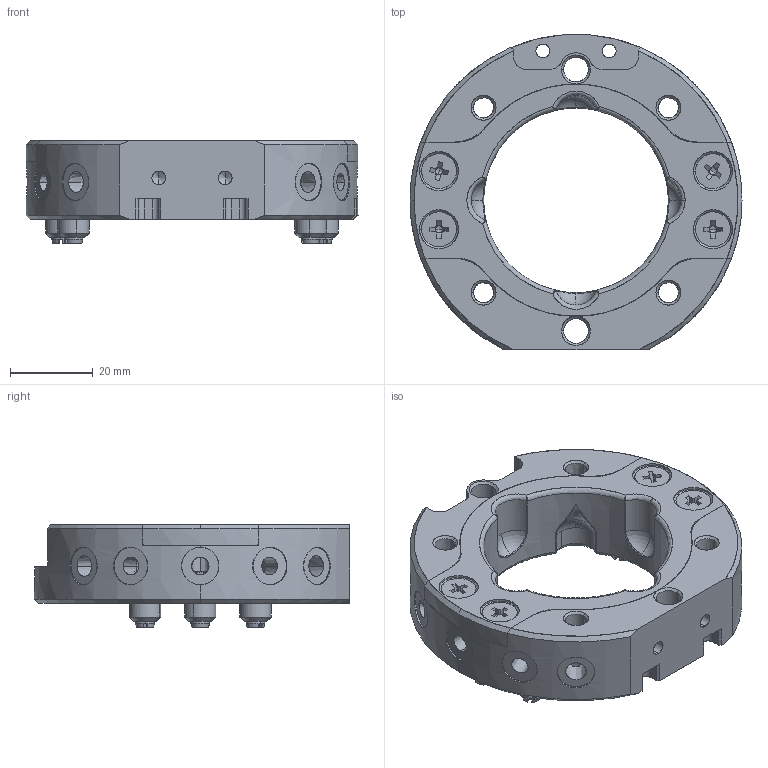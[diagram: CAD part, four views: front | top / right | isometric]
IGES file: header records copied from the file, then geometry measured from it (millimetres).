
Start section: SolidWorks IGES file using analytic representation for surfaces
Global section: file name: C:\Users\star053c\Desktop\OX僔儕乕僘\140242\140242.IGS; native system: SolidWorks 2013; preprocessor: SolidWorks 2013; author: STAR053C; date: 130425.221704; units: millimetre
Bounding box: 80 x 76 x 24.8 mm (x, y, z)
Surface area: 33371.1 mm2 (no closed solid volume)
Topology: 0 solids, 0 shells, 819 faces, 12419 edges, 12377 vertices
Faces by surface type: revolution 502, bspline 317
